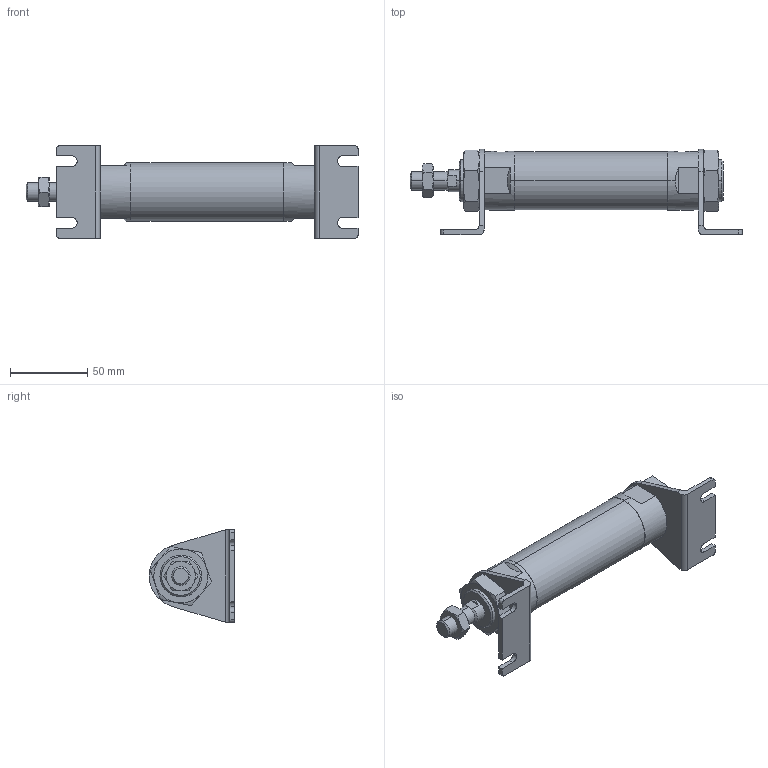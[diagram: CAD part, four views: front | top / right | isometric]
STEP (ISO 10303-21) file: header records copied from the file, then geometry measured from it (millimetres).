
FILE_DESCRIPTION (( 'STEP AP203' ), '1' );
FILE_NAME ('J#2-32-50-L.STEP', '2016-03-10T00:58:05', ( '' ), ( '' ), 'SwSTEP 2.0', 'SolidWorks 2014', '' );
FILE_SCHEMA (( 'CONFIG_CONTROL_DESIGN' ));
Length unit declared in the file: millimetre
Products named in the file (5): J#2-32-50; J#2-32-50-L; J#2-32-L
Assembly tree (6 placements, depth 2):
  J#2-32-50-L
    J#2-32-50
    (unnamed)
    (unnamed)  x2
    J#2-32-L  x2
Bounding box: 215.2 x 55.5 x 60 mm (x, y, z)
Volume: 206996.7 mm3; surface area: 46195.1 mm2
Topology: 6 solids, 6 shells, 170 faces, 404 edges, 249 vertices
Faces by surface type: plane 71, cylinder 48, torus 36, cone 15
Entity records: 4479 total; most frequent: CARTESIAN_POINT 1189, DIRECTION 578, ORIENTED_EDGE 558, EDGE_CURVE 279, AXIS2_PLACEMENT_3D 232, VERTEX_POINT 173, EDGE_LOOP 134, ADVANCED_FACE 121
